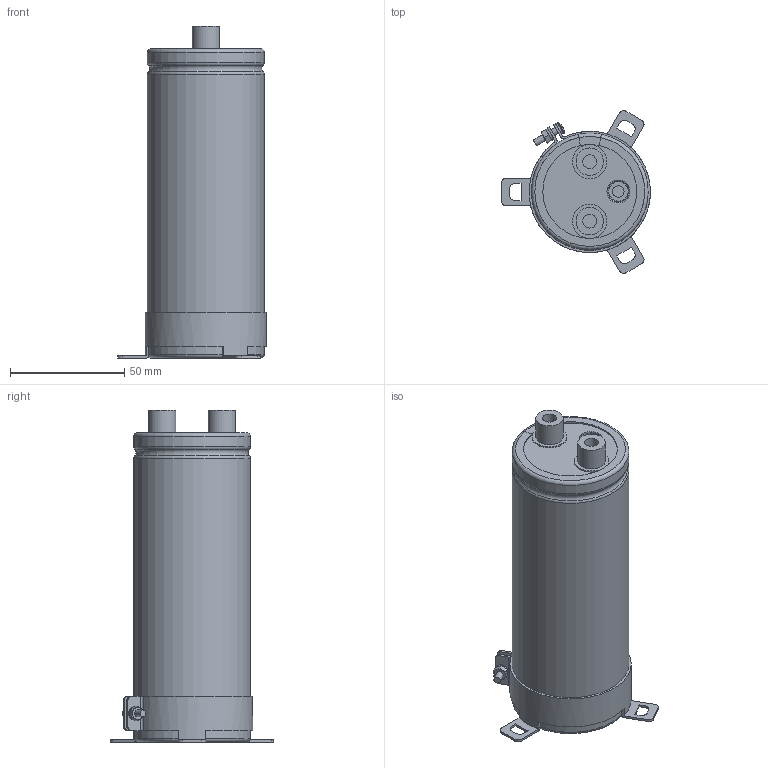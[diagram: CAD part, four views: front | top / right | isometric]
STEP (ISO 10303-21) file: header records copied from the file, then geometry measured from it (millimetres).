
FILE_DESCRIPTION(/* description */ (''),/* implementation_level */ '2;1');
FILE_NAME(/* name */ '51x135_EDLC_Screw.stp',/* time_stamp */ '2017-09-27T14:56:02+09:00',/* author */ (''),/* organization */ (''),/* preprocessor_version */ 'ST-DEVELOPER v16',/* originating_system */ 'SIEMENS PLM Software NX 11.0',/* authorisation */ '');
FILE_SCHEMA (('AUTOMOTIVE_DESIGN { 1 0 10303 214 3 1 1 1 }'));
Length unit declared in the file: millimetre
Products named in the file (1): 51x135_EDLC_Screw_1
Bounding box: 65 x 71.22 x 145 mm (x, y, z)
Volume: 278515.6 mm3; surface area: 79274.7 mm2
Topology: 9 solids, 9 shells, 257 faces, 639 edges, 411 vertices
Faces by surface type: plane 111, cylinder 65, torus 49, cone 31, sphere 1
Full cylindrical faces by diameter (mm): 3 x5, 5 x4, 5.5 x2, 6 x2, 10 x2, 12 x2, 15 x2, 49.8 x2
Entity records: 8377 total; most frequent: CARTESIAN_POINT 2059, DIRECTION 1288, ORIENTED_EDGE 1210, EDGE_CURVE 605, AXIS2_PLACEMENT_3D 537, VERTEX_POINT 406, EDGE_LOOP 313, CIRCLE 279
